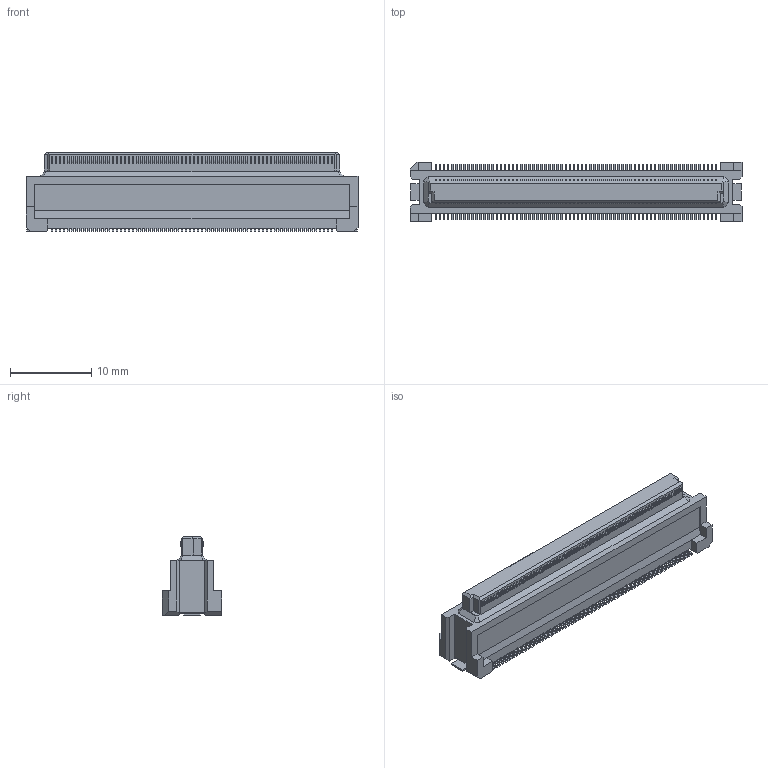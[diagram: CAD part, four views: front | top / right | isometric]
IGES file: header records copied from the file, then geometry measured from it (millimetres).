
Start section: Elysium IGES Interface
Global section: file name: C:\Users\1354\Desktop\DY10-140FS-1.igs; native system: Creo Elements/Direct Modeling 19.0F  14-Feb-2017; preprocessor: Creo Element/Direct IGES_3D V2.2; author: Unknown; organization: Unknown; date: 20171128.112121; units: millimetre
Bounding box: 40.9 x 7.3 x 9.73 mm (x, y, z)
Volume: 1618.6 mm3; surface area: 1553.7 mm2
Topology: 1 solids, 1 shells, 3228 faces, 9209 edges, 6126 vertices
Faces by surface type: bspline 3228
